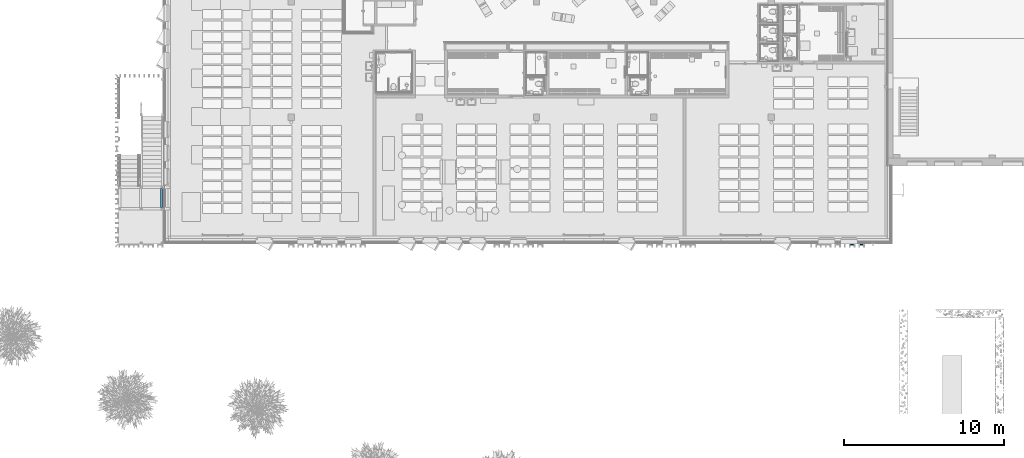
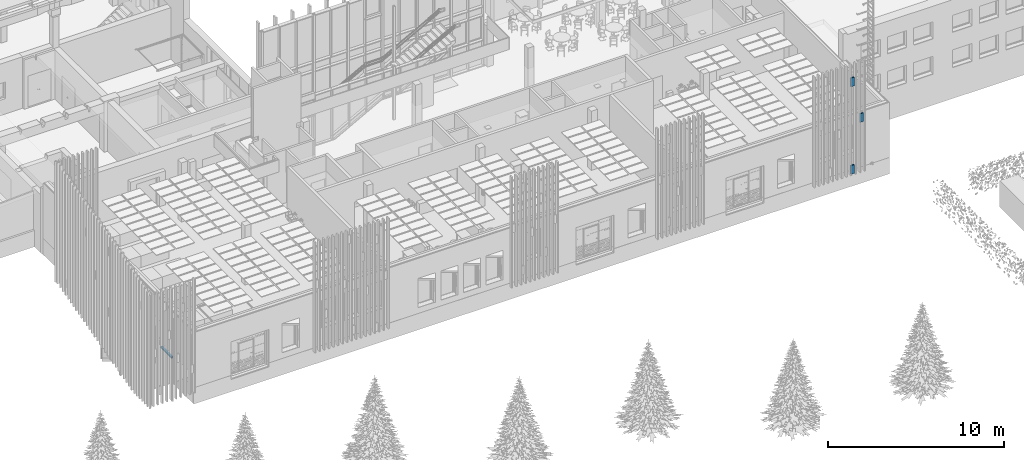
# One storey, part 24 of 301: 3 columns, 1 beam.
"""IFC2X3 building model written with IfcOpenShell, lengths in millimetres."""

from ifc_helpers import new_model, entity, si_unit, converted_unit, derived_unit, money_unit, direction, frame, origin_with_axes, place, context, subcontext, project, spatial, faceted_brep, material, type_object, element, save


model = new_model("IFC2X3")

# Units and contexts
model_context = context("Model", 3, precision=0.01, world=origin_with_axes(), true_north=direction((0.0, 1.0)))
body_context = subcontext(model_context, "Body", "Model", "MODEL_VIEW")
ifc_project = project(units=[si_unit("LENGTHUNIT", "METRE", prefix="MILLI"), si_unit("AREAUNIT", "SQUARE_METRE"), si_unit("VOLUMEUNIT", "CUBIC_METRE"), converted_unit("PLANEANGLEUNIT", "DEGREE", entity("IfcPlaneAngleMeasure", 0.0174532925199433), si_unit("PLANEANGLEUNIT", "RADIAN"), dimensions=[0, 0, 0, 0, 0, 0, 0]), money_unit("EUR"), converted_unit("TIMEUNIT", "Year", entity("IfcTimeMeasure", 31557600.0), si_unit("TIMEUNIT", "SECOND"), dimensions=[0, 0, 1, 0, 0, 0, 0]), si_unit("MASSUNIT", "GRAM", prefix="KILO"), si_unit("THERMODYNAMICTEMPERATUREUNIT", "DEGREE_CELSIUS"), si_unit("LUMINOUSINTENSITYUNIT", "LUMEN"), si_unit("ENERGYUNIT", "JOULE", prefix="MEGA"), derived_unit("THERMALCONDUCTANCEUNIT", [(si_unit("POWERUNIT", "WATT"), 1), (si_unit("LENGTHUNIT", "METRE"), -1), (si_unit("THERMODYNAMICTEMPERATUREUNIT", "KELVIN"), -1)]), derived_unit("SPECIFICHEATCAPACITYUNIT", [(si_unit("ENERGYUNIT", "JOULE"), 1), (si_unit("MASSUNIT", "GRAM", prefix="KILO"), -1), (si_unit("THERMODYNAMICTEMPERATUREUNIT", "KELVIN"), -1)]), derived_unit("MASSDENSITYUNIT", [(si_unit("MASSUNIT", "GRAM", prefix="KILO"), 1), (si_unit("VOLUMEUNIT", "CUBIC_METRE"), -1)])], contexts=[model_context])

# Site, building, storey
site_placement = place(None, frame((0.0, 0.0, 8650.0), z_axis=(0.0, 0.0, 1.0), x_axis=(1.0, 0.0, 0.0)))
site = spatial("IfcSite", under=ifc_project, at=site_placement, Name="43301:001:0844", CompositionType="ELEMENT")
building_placement = place(site_placement, origin_with_axes())
building = spatial("IfcBuilding", under=site, at=building_placement, Name="Kuressaare Ametikooli tuulikute mehaanikute õppekorpus", CompositionType="ELEMENT")
storey_placement = place(building_placement, origin_with_axes())
storey = spatial("IfcBuildingStorey", under=building, at=storey_placement, Name="1.korrus", CompositionType="ELEMENT", Elevation=0.0)

# Columns
ifc_material_1 = material(Name="GENEERILINE - KONSTRUKTRIOON")
column_type = type_object("IfcColumnType", Name="GENEERILINE - KONSTRUKTRIOON 225 x 75", PredefinedType="NOTDEFINED")
column_placement = place(storey_placement, frame((130971.2559016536, 8586.33849054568, 100.0000000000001), z_axis=(0.0, 0.0, 1.0), x_axis=(1.0, 0.0, 0.0)))
element("IfcColumn", 1, at=column_placement, inside=storey, type_object=column_type, material=ifc_material_1, Name="Varjestus_viltu", context=body_context, shape_type="Brep", body=[
    faceted_brep([(-112.4999999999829, -37.49999999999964, 593.4383502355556), (-112.4999999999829, -37.49999999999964, 0.0), (112.5000000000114, -37.49999999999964, 0.0), (112.5000000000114, -37.49999999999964, 593.4383502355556), (-112.4999999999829, 37.49999999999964, 599.9999999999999), (-112.4999999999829, 37.49999999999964, 0.0), (112.5000000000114, 37.49999999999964, 0.0), (112.5000000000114, 37.49999999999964, 599.9999999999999)], [[[0, 1, 2, 3]], [[4, 5, 1, 0]], [[2, 1, 5, 6]], [[3, 2, 6, 7]], [[4, 0, 3, 7]], [[7, 6, 5, 4]]]),
])
for number, where, z_axis, x_axis in (
    (2, (131571.2559016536, 8586.33849054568, 3482.960251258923), (0.0, 0.0, 1.0), (1.0, 0.0, 0.0)),
    (3, (130971.2559016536, 8586.33849054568, 6162.349559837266), (0.0, 0.0, 1.0), (1.0, 0.0, 0.0)),
):
    element("IfcColumn", number, at=place(storey_placement, frame(where, z_axis=z_axis, x_axis=x_axis)), inside=storey, type_object=column_type, material=ifc_material_1, Name="Varjestus_viltu", context=body_context, shape_type="Brep", body=[
        faceted_brep([(-112.4999999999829, -37.49999999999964, 593.4383502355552), (-112.4999999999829, -37.49999999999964, 0.0), (112.5000000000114, -37.49999999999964, 0.0), (112.5000000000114, -37.49999999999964, 593.4383502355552), (-112.4999999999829, 37.49999999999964, 599.9999999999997), (-112.4999999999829, 37.49999999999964, 0.0), (112.5000000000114, 37.49999999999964, 0.0), (112.5000000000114, 37.49999999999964, 599.9999999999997)], [[[0, 1, 2, 3]], [[4, 5, 1, 0]], [[2, 1, 5, 6]], [[3, 2, 6, 7]], [[4, 0, 3, 7]], [[7, 6, 5, 4]]]),
    ])

# Beam
ifc_material_2 = material(Name="STEEL/S355")
beam_type = type_object("IfcBeamType", Name="IFC Footing Extruded", PredefinedType="NOTDEFINED")
beam_placement = place(storey_placement, frame((87747.7266238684, 12113.83806945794, 1083.673538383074), z_axis=(0.0, 0.0, 1.0), x_axis=(0.0, -1.0, 0.0)))
element("IfcBeam", 4, at=beam_placement, inside=storey, type_object=beam_type, material=ifc_material_2, Name="RAAM", context=body_context, shape_type="Brep", body=[
    faceted_brep([(1215.00000000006, 60.0, -60.0), (1215.00000000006, -60.0, -60.0), (0.0, -60.00000000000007, -59.99999999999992), (0.0, 59.99999999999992, -59.99999999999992), (1215.00000000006, 60.0, 60.0), (1215.00000000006, -60.0, 60.0), (1215.00000000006, 55.0, -55.0), (1215.00000000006, -55.0, -55.0), (1215.00000000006, -55.0, 55.0), (1215.00000000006, 55.0, 55.0), (0.0, -60.00000000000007, 60.00000000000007), (0.0, 59.99999999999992, 60.00000000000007), (0.0, 54.99999999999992, -54.99999999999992), (0.0, 54.99999999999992, 55.00000000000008), (0.0, -55.00000000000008, 55.00000000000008), (0.0, -55.00000000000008, -54.99999999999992)], [[[0, 1, 2, 3]], [[0, 4, 5, 1], [6, 7, 8, 9]], [[1, 5, 10, 2]], [[3, 2, 10, 11], [12, 13, 14, 15]], [[4, 0, 3, 11]], [[5, 4, 11, 10]], [[7, 6, 12, 15]], [[8, 7, 15, 14]], [[9, 8, 14, 13]], [[6, 9, 13, 12]]]),
])

save(model, "model.ifc")
